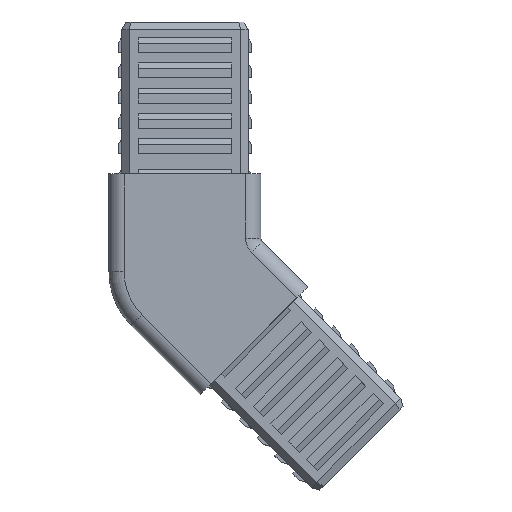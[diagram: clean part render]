
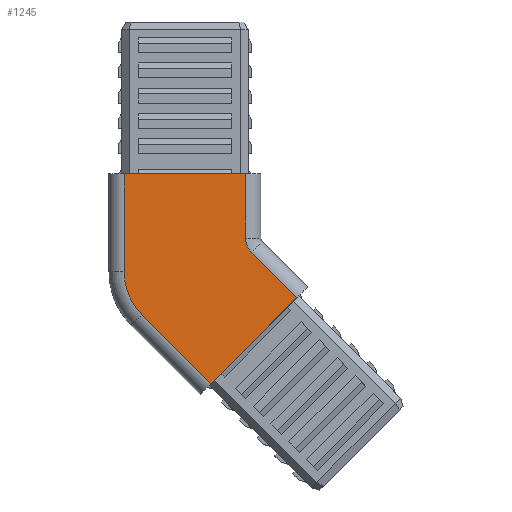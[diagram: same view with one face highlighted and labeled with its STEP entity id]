
A CAD part, top view. The second image highlights one B-rep face of the part: STEP entity #1245.
In plain terms, the highlighted planar face has unit normal (0, 0, 1).
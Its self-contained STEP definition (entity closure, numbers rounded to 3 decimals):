
#299 = VERTEX_POINT ( 'NONE', #1825 ) ;
#497 = CARTESIAN_POINT ( 'NONE',  ( -12., -1.199, 15. ) ) ;
#883 = FACE_OUTER_BOUND ( 'NONE', #6936, .T. ) ;
#885 = VECTOR ( 'NONE', #3864, 1000. ) ;
#963 = DIRECTION ( 'NONE',  ( 0.707, -0.707, 0. ) ) ;
#1245 = ADVANCED_FACE ( 'NONE', ( #883 ), #5803, .F. ) ;
#1287 = VERTEX_POINT ( 'NONE', #7225 ) ;
#1362 = EDGE_CURVE ( 'NONE', #6973, #2993, #1838, .T. ) ;
#1367 = CARTESIAN_POINT ( 'NONE',  ( 12., 18.088, 15. ) ) ;
#1443 = ORIENTED_EDGE ( 'NONE', *, *, #1740, .T. ) ;
#1555 = LINE ( 'NONE', #5738, #7817 ) ;
#1740 = EDGE_CURVE ( 'NONE', #5063, #8367, #5367, .T. ) ;
#1799 = CARTESIAN_POINT ( 'NONE',  ( 12., 5.429, 15. ) ) ;
#1824 = VERTEX_POINT ( 'NONE', #497 ) ;
#1825 = CARTESIAN_POINT ( 'NONE',  ( 5.153, -23.322, 15. ) ) ;
#1826 = VECTOR ( 'NONE', #6866, 1000. ) ;
#1838 = LINE ( 'NONE', #2524, #885 ) ;
#1859 = CARTESIAN_POINT ( 'NONE',  ( 0., -1.199, 15. ) ) ;
#2123 = ORIENTED_EDGE ( 'NONE', *, *, #1362, .T. ) ;
#2281 = VECTOR ( 'NONE', #8174, 1000. ) ;
#2346 = CARTESIAN_POINT ( 'NONE',  ( -9.085, -9.085, 15. ) ) ;
#2524 = CARTESIAN_POINT ( 'NONE',  ( 7.886, 7.886, 15. ) ) ;
#2636 = CARTESIAN_POINT ( 'NONE',  ( 3.031, -25.443, 15. ) ) ;
#2639 = EDGE_CURVE ( 'NONE', #5252, #1824, #8879, .T. ) ;
#2993 = VERTEX_POINT ( 'NONE', #5778 ) ;
#3045 = DIRECTION ( 'NONE',  ( -1., 0., 0. ) ) ;
#3075 = AXIS2_PLACEMENT_3D ( 'NONE', #1859, #7293, #8762 ) ;
#3284 = EDGE_CURVE ( 'NONE', #6973, #299, #3969, .T. ) ;
#3391 = CARTESIAN_POINT ( 'NONE',  ( 22.123, -6.351, 15. ) ) ;
#3485 = DIRECTION ( 'NONE',  ( 0., 0., -1. ) ) ;
#3591 = DIRECTION ( 'NONE',  ( 0., -1., 0. ) ) ;
#3811 = CARTESIAN_POINT ( 'NONE',  ( 12., 0., 15. ) ) ;
#3864 = DIRECTION ( 'NONE',  ( -0.707, 0.707, 0. ) ) ;
#3952 = ORIENTED_EDGE ( 'NONE', *, *, #4678, .T. ) ;
#3958 = CIRCLE ( 'NONE', #4837, 4. ) ;
#3969 = LINE ( 'NONE', #2636, #1826 ) ;
#4253 = EDGE_CURVE ( 'NONE', #1824, #1287, #5417, .T. ) ;
#4320 = DIRECTION ( 'NONE',  ( -1., 0., 0. ) ) ;
#4678 = EDGE_CURVE ( 'NONE', #2993, #5063, #3958, .T. ) ;
#4763 = DIRECTION ( 'NONE',  ( -1., 0., 0. ) ) ;
#4837 = AXIS2_PLACEMENT_3D ( 'NONE', #6969, #3485, #4763 ) ;
#5063 = VERTEX_POINT ( 'NONE', #1799 ) ;
#5252 = VERTEX_POINT ( 'NONE', #8612 ) ;
#5367 = LINE ( 'NONE', #3811, #2281 ) ;
#5380 = CARTESIAN_POINT ( 'NONE',  ( -12., 0., 15. ) ) ;
#5417 = CIRCLE ( 'NONE', #3075, 12. ) ;
#5738 = CARTESIAN_POINT ( 'NONE',  ( -15., 18.088, 15. ) ) ;
#5778 = CARTESIAN_POINT ( 'NONE',  ( 13.172, 2.6, 15. ) ) ;
#5803 = PLANE ( 'NONE',  #5917 ) ;
#5917 = AXIS2_PLACEMENT_3D ( 'NONE', #7916, #7273, #3045 ) ;
#6112 = VECTOR ( 'NONE', #3591, 1000. ) ;
#6149 = ORIENTED_EDGE ( 'NONE', *, *, #3284, .F. ) ;
#6707 = VECTOR ( 'NONE', #963, 1000. ) ;
#6866 = DIRECTION ( 'NONE',  ( -0.707, -0.707, 0. ) ) ;
#6936 = EDGE_LOOP ( 'NONE', ( #6149, #2123, #3952, #1443, #9001, #7523, #9029, #8427 ) ) ;
#6969 = CARTESIAN_POINT ( 'NONE',  ( 16., 5.429, 15. ) ) ;
#6973 = VERTEX_POINT ( 'NONE', #3391 ) ;
#7225 = CARTESIAN_POINT ( 'NONE',  ( -8.485, -9.684, 15. ) ) ;
#7273 = DIRECTION ( 'NONE',  ( 0., 0., -1. ) ) ;
#7293 = DIRECTION ( 'NONE',  ( 0., 0., 1. ) ) ;
#7523 = ORIENTED_EDGE ( 'NONE', *, *, #2639, .T. ) ;
#7817 = VECTOR ( 'NONE', #4320, 1000. ) ;
#7916 = CARTESIAN_POINT ( 'NONE',  ( 0., 0., 15. ) ) ;
#8140 = EDGE_CURVE ( 'NONE', #1287, #299, #8652, .T. ) ;
#8174 = DIRECTION ( 'NONE',  ( 0., 1., 0. ) ) ;
#8295 = EDGE_CURVE ( 'NONE', #8367, #5252, #1555, .T. ) ;
#8367 = VERTEX_POINT ( 'NONE', #1367 ) ;
#8427 = ORIENTED_EDGE ( 'NONE', *, *, #8140, .T. ) ;
#8612 = CARTESIAN_POINT ( 'NONE',  ( -12., 18.088, 15. ) ) ;
#8652 = LINE ( 'NONE', #2346, #6707 ) ;
#8762 = DIRECTION ( 'NONE',  ( -1., 0., 0. ) ) ;
#8879 = LINE ( 'NONE', #5380, #6112 ) ;
#9001 = ORIENTED_EDGE ( 'NONE', *, *, #8295, .T. ) ;
#9029 = ORIENTED_EDGE ( 'NONE', *, *, #4253, .T. ) ;
